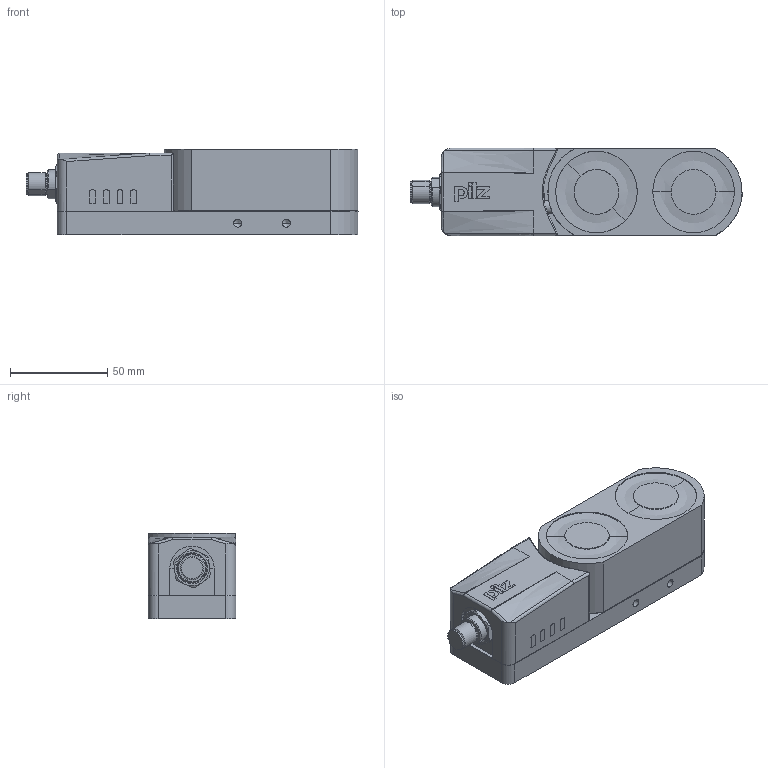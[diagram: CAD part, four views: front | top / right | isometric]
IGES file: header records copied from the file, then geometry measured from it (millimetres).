
Global section: file name: No Iges File Name specified; native system: Autodesk Inventor 2010; preprocessor: AutoDesk Inventor Iges Exporter R2010; author: pschmucki; date: 20110920.141143; units: millimetre
Bounding box: 170.91 x 45 x 44 mm (x, y, z)
Volume: 286339.7 mm3; surface area: 34653.6 mm2
Topology: 1 solids, 5 shells, 387 faces, 971 edges, 602 vertices
Faces by surface type: plane 170, cylinder 80, bspline 62, revolution 43, cone 23, torus 9
